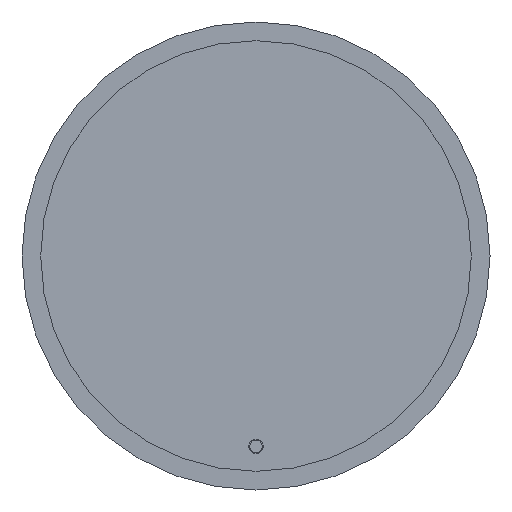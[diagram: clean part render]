
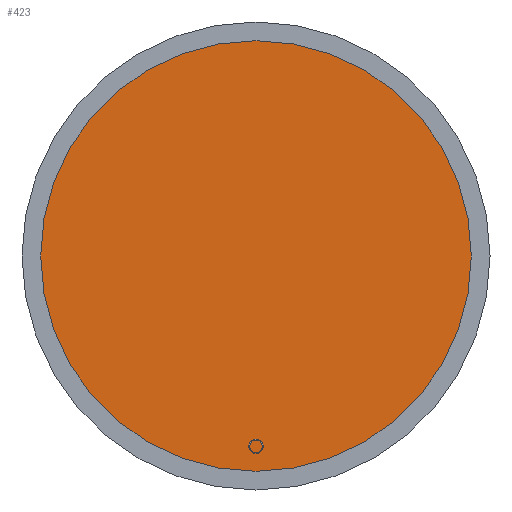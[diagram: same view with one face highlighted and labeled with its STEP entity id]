
A CAD part, front view. The second image highlights one B-rep face of the part: STEP entity #423.
In plain terms, the highlighted planar face has unit normal (0, -1, 0).
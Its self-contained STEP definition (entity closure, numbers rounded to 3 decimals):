
#34=PLANE('',#504);
#55=FACE_OUTER_BOUND('',#83,.T.);
#83=EDGE_LOOP('',(#336,#337));
#149=CIRCLE('',#501,375.);
#150=CIRCLE('',#502,375.);
#190=VERTEX_POINT('',#756);
#191=VERTEX_POINT('',#758);
#241=EDGE_CURVE('',#190,#191,#149,.T.);
#242=EDGE_CURVE('',#191,#190,#150,.T.);
#336=ORIENTED_EDGE('',*,*,#242,.F.);
#337=ORIENTED_EDGE('',*,*,#241,.F.);
#423=ADVANCED_FACE('',(#55),#34,.T.);
#501=AXIS2_PLACEMENT_3D('',#759,#625,#626);
#502=AXIS2_PLACEMENT_3D('',#760,#627,#628);
#504=AXIS2_PLACEMENT_3D('',#762,#631,#632);
#625=DIRECTION('center_axis',(0.,1.,0.));
#626=DIRECTION('ref_axis',(1.,0.,0.));
#627=DIRECTION('center_axis',(0.,1.,0.));
#628=DIRECTION('ref_axis',(1.,0.,0.));
#631=DIRECTION('center_axis',(0.,-1.,0.));
#632=DIRECTION('ref_axis',(0.,0.,-1.));
#756=CARTESIAN_POINT('',(0.,-35.,-375.));
#758=CARTESIAN_POINT('',(0.,-35.,375.));
#759=CARTESIAN_POINT('Origin',(0.,-35.,0.));
#760=CARTESIAN_POINT('Origin',(0.,-35.,0.));
#762=CARTESIAN_POINT('Origin',(0.,-35.,375.));
